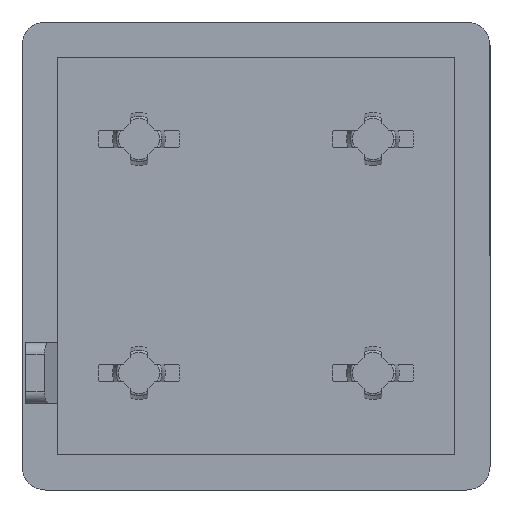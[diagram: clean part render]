
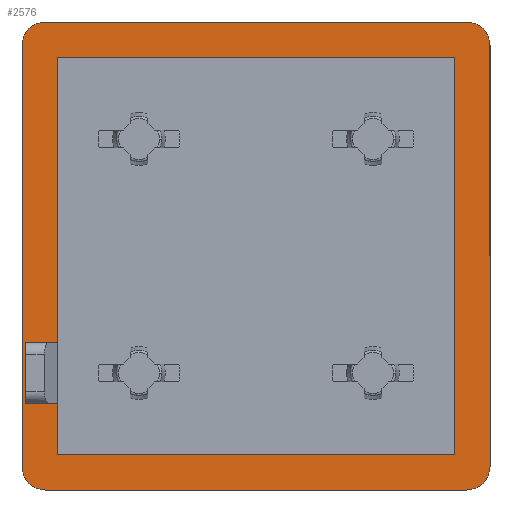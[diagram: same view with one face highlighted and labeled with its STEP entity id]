
A CAD part, front view. The second image highlights one B-rep face of the part: STEP entity #2576.
In plain terms, the highlighted planar face has unit normal (0, -1, 0).
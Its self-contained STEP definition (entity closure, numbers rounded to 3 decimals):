
#22 = EDGE_CURVE ( 'NONE', #1294, #4266, #3853, .T. ) ;
#42 = VECTOR ( 'NONE', #4112, 1000. ) ;
#69 = ORIENTED_EDGE ( 'NONE', *, *, #4863, .T. ) ;
#101 = CARTESIAN_POINT ( 'NONE',  ( 18., 1.757, -15.743 ) ) ;
#120 = VERTEX_POINT ( 'NONE', #5305 ) ;
#194 = ORIENTED_EDGE ( 'NONE', *, *, #1896, .F. ) ;
#270 = EDGE_CURVE ( 'NONE', #669, #4394, #3011, .T. ) ;
#298 = LINE ( 'NONE', #4797, #4634 ) ;
#431 = CIRCLE ( 'NONE', #4118, 2. ) ;
#437 = ORIENTED_EDGE ( 'NONE', *, *, #4561, .T. ) ;
#552 = ORIENTED_EDGE ( 'NONE', *, *, #1225, .T. ) ;
#669 = VERTEX_POINT ( 'NONE', #2033 ) ;
#682 = DIRECTION ( 'NONE',  ( 0., 0., 1. ) ) ;
#688 = ORIENTED_EDGE ( 'NONE', *, *, #22, .T. ) ;
#769 = CARTESIAN_POINT ( 'NONE',  ( -18., 1.757, -13.743 ) ) ;
#803 = AXIS2_PLACEMENT_3D ( 'NONE', #4945, #5207, #5221 ) ;
#804 = DIRECTION ( 'NONE',  ( 1., 0., 0. ) ) ;
#848 = CARTESIAN_POINT ( 'NONE',  ( -19.7, 1.757, -8.343 ) ) ;
#853 = VECTOR ( 'NONE', #4331, 1000. ) ;
#900 = CARTESIAN_POINT ( 'NONE',  ( 20., 1.757, -13.743 ) ) ;
#1004 = CARTESIAN_POINT ( 'NONE',  ( 18., 1.757, -13.743 ) ) ;
#1036 = DIRECTION ( 'NONE',  ( 0., 0., -1. ) ) ;
#1067 = ORIENTED_EDGE ( 'NONE', *, *, #3508, .T. ) ;
#1170 = DIRECTION ( 'NONE',  ( 1., 0., 0. ) ) ;
#1225 = EDGE_CURVE ( 'NONE', #3937, #5228, #5699, .T. ) ;
#1294 = VERTEX_POINT ( 'NONE', #3773 ) ;
#1428 = DIRECTION ( 'NONE',  ( 0., -1., 0. ) ) ;
#1611 = DIRECTION ( 'NONE',  ( 0., 0., 1. ) ) ;
#1624 = VECTOR ( 'NONE', #2517, 1000. ) ;
#1686 = DIRECTION ( 'NONE',  ( 0., 0., 1. ) ) ;
#1709 = VECTOR ( 'NONE', #1611, 1000. ) ;
#1746 = CARTESIAN_POINT ( 'NONE',  ( -18., 1.757, 24.257 ) ) ;
#1896 = EDGE_CURVE ( 'NONE', #120, #5228, #2270, .T. ) ;
#1984 = ORIENTED_EDGE ( 'NONE', *, *, #2768, .T. ) ;
#2033 = CARTESIAN_POINT ( 'NONE',  ( 17., 1.757, 21.257 ) ) ;
#2083 = CARTESIAN_POINT ( 'NONE',  ( -18., 1.757, -15.743 ) ) ;
#2125 = VERTEX_POINT ( 'NONE', #5438 ) ;
#2186 = EDGE_CURVE ( 'NONE', #120, #1294, #4448, .T. ) ;
#2260 = VECTOR ( 'NONE', #804, 1000. ) ;
#2270 = CIRCLE ( 'NONE', #3273, 2. ) ;
#2338 = DIRECTION ( 'NONE',  ( -1., 0., 0. ) ) ;
#2359 = CARTESIAN_POINT ( 'NONE',  ( -17., 1.757, 21.257 ) ) ;
#2370 = CARTESIAN_POINT ( 'NONE',  ( 20., 1.757, 22.257 ) ) ;
#2404 = LINE ( 'NONE', #3938, #2260 ) ;
#2476 = FACE_BOUND ( 'NONE', #2510, .T. ) ;
#2510 = EDGE_LOOP ( 'NONE', ( #4983, #1067, #4803, #437, #1984, #69, #5494, #5572 ) ) ;
#2517 = DIRECTION ( 'NONE',  ( 1., 0., 0. ) ) ;
#2565 = DIRECTION ( 'NONE',  ( 1., 0., 0. ) ) ;
#2576 = ADVANCED_FACE ( 'NONE', ( #2476, #3679 ), #5203, .T. ) ;
#2591 = EDGE_CURVE ( 'NONE', #4394, #4267, #2613, .T. ) ;
#2613 = LINE ( 'NONE', #5271, #4831 ) ;
#2685 = LINE ( 'NONE', #2083, #3739 ) ;
#2758 = LINE ( 'NONE', #4232, #1709 ) ;
#2768 = EDGE_CURVE ( 'NONE', #3928, #4246, #4026, .T. ) ;
#2780 = EDGE_CURVE ( 'NONE', #3327, #3937, #431, .T. ) ;
#2792 = EDGE_CURVE ( 'NONE', #4266, #2949, #2685, .T. ) ;
#2826 = CARTESIAN_POINT ( 'NONE',  ( -17., 1.757, -3.143 ) ) ;
#2865 = CARTESIAN_POINT ( 'NONE',  ( -17., 1.757, -12.743 ) ) ;
#2888 = VERTEX_POINT ( 'NONE', #2359 ) ;
#2949 = VERTEX_POINT ( 'NONE', #101 ) ;
#2958 = EDGE_CURVE ( 'NONE', #2949, #5141, #4362, .T. ) ;
#3011 = LINE ( 'NONE', #5017, #4194 ) ;
#3022 = CARTESIAN_POINT ( 'NONE',  ( -18., 1.757, 22.257 ) ) ;
#3070 = VECTOR ( 'NONE', #2338, 1000. ) ;
#3216 = EDGE_CURVE ( 'NONE', #5141, #3327, #5461, .T. ) ;
#3244 = ORIENTED_EDGE ( 'NONE', *, *, #2780, .T. ) ;
#3249 = LINE ( 'NONE', #4270, #5599 ) ;
#3273 = AXIS2_PLACEMENT_3D ( 'NONE', #3022, #5675, #2565 ) ;
#3326 = EDGE_CURVE ( 'NONE', #2125, #5648, #3618, .T. ) ;
#3327 = VERTEX_POINT ( 'NONE', #2370 ) ;
#3508 = EDGE_CURVE ( 'NONE', #4267, #2125, #2758, .T. ) ;
#3535 = EDGE_LOOP ( 'NONE', ( #3244, #552, #194, #3589, #688, #5264, #5320, #5209 ) ) ;
#3589 = ORIENTED_EDGE ( 'NONE', *, *, #2186, .T. ) ;
#3618 = LINE ( 'NONE', #3660, #42 ) ;
#3620 = CARTESIAN_POINT ( 'NONE',  ( -19.7, 1.757, -3.143 ) ) ;
#3633 = CARTESIAN_POINT ( 'NONE',  ( -18., 1.757, -3.143 ) ) ;
#3660 = CARTESIAN_POINT ( 'NONE',  ( -18., 1.757, -8.343 ) ) ;
#3679 = FACE_OUTER_BOUND ( 'NONE', #3535, .T. ) ;
#3726 = DIRECTION ( 'NONE',  ( 0., -1., 0. ) ) ;
#3739 = VECTOR ( 'NONE', #4550, 1000. ) ;
#3754 = CARTESIAN_POINT ( 'NONE',  ( 17., 1.757, -12.743 ) ) ;
#3767 = CARTESIAN_POINT ( 'NONE',  ( 18., 1.757, 24.257 ) ) ;
#3773 = CARTESIAN_POINT ( 'NONE',  ( -20., 1.757, -13.743 ) ) ;
#3839 = CARTESIAN_POINT ( 'NONE',  ( 18., 1.757, 22.257 ) ) ;
#3853 = CIRCLE ( 'NONE', #5023, 2. ) ;
#3872 = CARTESIAN_POINT ( 'NONE',  ( -18., 1.757, -15.743 ) ) ;
#3928 = VERTEX_POINT ( 'NONE', #3620 ) ;
#3937 = VERTEX_POINT ( 'NONE', #3767 ) ;
#3938 = CARTESIAN_POINT ( 'NONE',  ( -18., 1.757, 21.257 ) ) ;
#4026 = LINE ( 'NONE', #3633, #1624 ) ;
#4112 = DIRECTION ( 'NONE',  ( -1., 0., 0. ) ) ;
#4118 = AXIS2_PLACEMENT_3D ( 'NONE', #3839, #3726, #4326 ) ;
#4137 = CARTESIAN_POINT ( 'NONE',  ( -18., 1.757, 24.257 ) ) ;
#4194 = VECTOR ( 'NONE', #1036, 1000. ) ;
#4198 = DIRECTION ( 'NONE',  ( 0., 0., -1. ) ) ;
#4232 = CARTESIAN_POINT ( 'NONE',  ( -17., 1.757, 22.257 ) ) ;
#4246 = VERTEX_POINT ( 'NONE', #2826 ) ;
#4266 = VERTEX_POINT ( 'NONE', #3872 ) ;
#4267 = VERTEX_POINT ( 'NONE', #2865 ) ;
#4270 = CARTESIAN_POINT ( 'NONE',  ( -17., 1.757, 22.257 ) ) ;
#4295 = CARTESIAN_POINT ( 'NONE',  ( 20., 1.757, 22.257 ) ) ;
#4326 = DIRECTION ( 'NONE',  ( 1., 0., 0. ) ) ;
#4331 = DIRECTION ( 'NONE',  ( 0., 0., 1. ) ) ;
#4362 = CIRCLE ( 'NONE', #5587, 2. ) ;
#4363 = DIRECTION ( 'NONE',  ( 0., -1., 0. ) ) ;
#4394 = VERTEX_POINT ( 'NONE', #3754 ) ;
#4448 = LINE ( 'NONE', #5031, #5475 ) ;
#4550 = DIRECTION ( 'NONE',  ( 1., 0., 0. ) ) ;
#4561 = EDGE_CURVE ( 'NONE', #5648, #3928, #298, .T. ) ;
#4581 = EDGE_CURVE ( 'NONE', #2888, #669, #2404, .T. ) ;
#4634 = VECTOR ( 'NONE', #1686, 1000. ) ;
#4790 = DIRECTION ( 'NONE',  ( 1., 0., 0. ) ) ;
#4797 = CARTESIAN_POINT ( 'NONE',  ( -19.7, 1.757, 22.257 ) ) ;
#4803 = ORIENTED_EDGE ( 'NONE', *, *, #3326, .T. ) ;
#4831 = VECTOR ( 'NONE', #5249, 1000. ) ;
#4863 = EDGE_CURVE ( 'NONE', #4246, #2888, #3249, .T. ) ;
#4945 = CARTESIAN_POINT ( 'NONE',  ( -18., 1.757, 22.257 ) ) ;
#4983 = ORIENTED_EDGE ( 'NONE', *, *, #2591, .T. ) ;
#5017 = CARTESIAN_POINT ( 'NONE',  ( 17., 1.757, 22.257 ) ) ;
#5023 = AXIS2_PLACEMENT_3D ( 'NONE', #769, #4363, #4790 ) ;
#5031 = CARTESIAN_POINT ( 'NONE',  ( -20., 1.757, 22.257 ) ) ;
#5141 = VERTEX_POINT ( 'NONE', #900 ) ;
#5203 = PLANE ( 'NONE',  #803 ) ;
#5207 = DIRECTION ( 'NONE',  ( 0., -1., 0. ) ) ;
#5209 = ORIENTED_EDGE ( 'NONE', *, *, #3216, .T. ) ;
#5221 = DIRECTION ( 'NONE',  ( 1., 0., 0. ) ) ;
#5228 = VERTEX_POINT ( 'NONE', #4137 ) ;
#5249 = DIRECTION ( 'NONE',  ( -1., 0., 0. ) ) ;
#5264 = ORIENTED_EDGE ( 'NONE', *, *, #2792, .T. ) ;
#5271 = CARTESIAN_POINT ( 'NONE',  ( -18., 1.757, -12.743 ) ) ;
#5305 = CARTESIAN_POINT ( 'NONE',  ( -20., 1.757, 22.257 ) ) ;
#5320 = ORIENTED_EDGE ( 'NONE', *, *, #2958, .T. ) ;
#5438 = CARTESIAN_POINT ( 'NONE',  ( -17., 1.757, -8.343 ) ) ;
#5461 = LINE ( 'NONE', #4295, #853 ) ;
#5475 = VECTOR ( 'NONE', #4198, 1000. ) ;
#5494 = ORIENTED_EDGE ( 'NONE', *, *, #4581, .T. ) ;
#5572 = ORIENTED_EDGE ( 'NONE', *, *, #270, .T. ) ;
#5587 = AXIS2_PLACEMENT_3D ( 'NONE', #1004, #1428, #1170 ) ;
#5599 = VECTOR ( 'NONE', #682, 1000. ) ;
#5648 = VERTEX_POINT ( 'NONE', #848 ) ;
#5675 = DIRECTION ( 'NONE',  ( 0., 1., 0. ) ) ;
#5699 = LINE ( 'NONE', #1746, #3070 ) ;
